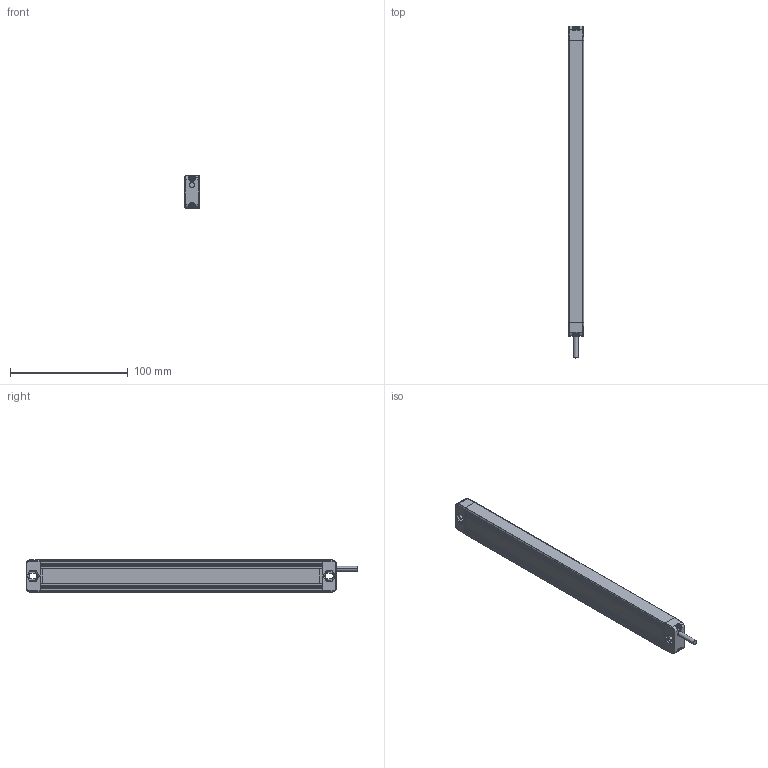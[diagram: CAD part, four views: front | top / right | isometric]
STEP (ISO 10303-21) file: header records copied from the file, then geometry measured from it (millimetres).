
FILE_DESCRIPTION((''),'2;1');
FILE_NAME('EB13-0320_ASM','2021-07-12T16:32:39',('18720616900'),(''),'CREO PARAMETRIC BY PTC INC, 2019010','CREO PARAMETRIC BY PTC INC, 2019010','');
FILE_SCHEMA(('CONFIG_CONTROL_DESIGN'));
Products named in the file (7): EB1300; 000; 0002; 0004; EB13-0320_ASM
Assembly tree (9 placements, depth 2):
  EB13-0320_ASM
    EB1300
    000
    0002
    000
    0004  x4
    000
Bounding box: 13 x 282.4 x 28 mm (x, y, z)
Volume: 98008.8 mm3; surface area: 36444.7 mm2
Topology: 9 solids, 27 shells, 1032 faces, 3520 edges, 2523 vertices
Faces by surface type: cylinder 544, plane 295, bspline 118, torus 40, sphere 31, cone 4
Entity records: 52594 total; most frequent: CARTESIAN_POINT 37957, ORIENTED_EDGE 3370, DIRECTION 2501, EDGE_CURVE 1685, VERTEX_POINT 1150, AXIS2_PLACEMENT_3D 849, VECTOR 803, LINE 803
